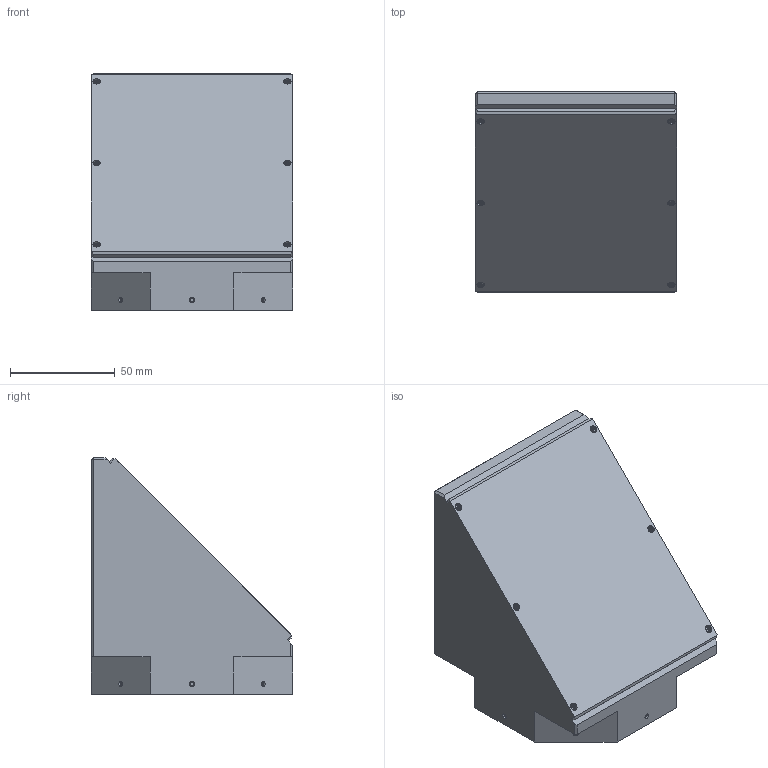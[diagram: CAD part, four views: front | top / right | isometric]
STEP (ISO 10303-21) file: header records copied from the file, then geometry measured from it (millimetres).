
FILE_DESCRIPTION (( 'STEP AP203' ), '1' );
FILE_NAME ('3d_mtl-pl65_a001.STEP', '2017-05-24T07:45:51', ( '' ), ( '' ), 'SwSTEP 2.0', 'SolidWorks 2014', '' );
FILE_SCHEMA (( 'CONFIG_CONTROL_DESIGN' ));
Length unit declared in the file: millimetre
Products named in the file (1): 3d_mtl-pl65_a001
Bounding box: 96 x 96 x 113 mm (x, y, z)
Volume: 263302.9 mm3; surface area: 62726 mm2
Topology: 1 solids, 13 shells, 467 faces, 1118 edges, 709 vertices
Faces by surface type: plane 254, cone 146, cylinder 49, torus 12, sphere 6
Full cylindrical faces by diameter (mm): 1.6 x6, 2 x6, 2.4 x6, 2.5 x16, 3.3 x4, 3.5 x6, 77 x2, 81.18 x1, 82 x1, 86 x1
Entity records: 13120 total; most frequent: CARTESIAN_POINT 3294, DIRECTION 2022, ORIENTED_EDGE 1866, EDGE_CURVE 933, AXIS2_PLACEMENT_3D 848, VERTEX_POINT 636, EDGE_LOOP 625, FACE_OUTER_BOUND 534
